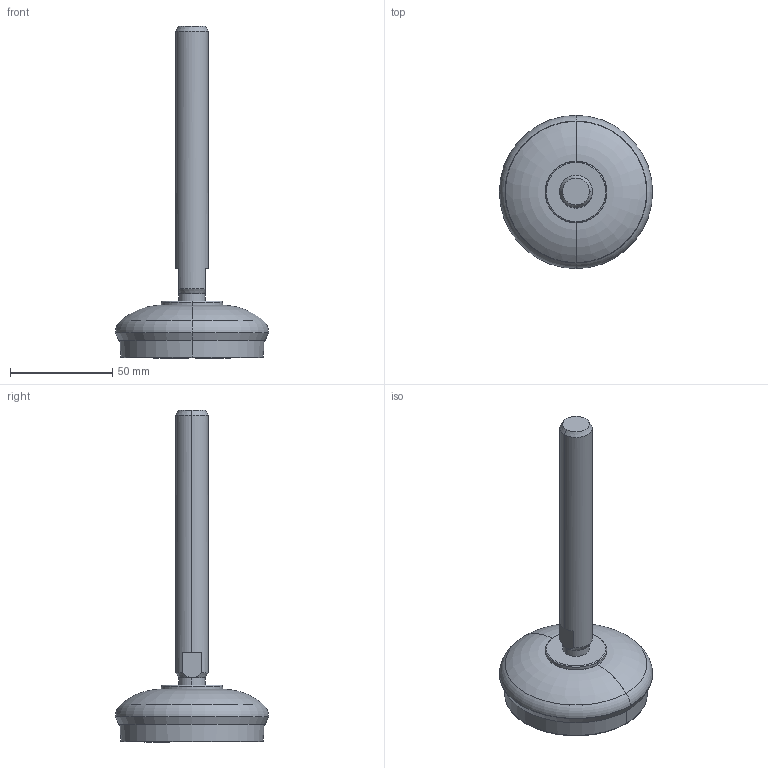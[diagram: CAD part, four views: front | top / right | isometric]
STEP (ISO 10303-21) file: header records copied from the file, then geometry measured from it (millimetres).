
FILE_DESCRIPTION (( 'STEP AP214' ), '1' );
FILE_NAME ('8567805.STEP', '2024-01-24T10:43:32', ( '' ), ( '' ), 'SwSTEP 2.0', 'SolidWorks 2022', '' );
FILE_SCHEMA (( 'AUTOMOTIVE_DESIGN' ));
Length unit declared in the file: millimetre
Products named in the file (1): 8567805
Bounding box: 74.99 x 74.99 x 162.46 mm (x, y, z)
Volume: 120349.4 mm3; surface area: 35137.8 mm2
Topology: 4 solids, 4 shells, 126 faces, 252 edges, 148 vertices
Faces by surface type: torus 38, cone 38, plane 26, cylinder 24
Entity records: 4834 total; most frequent: DIRECTION 684, CARTESIAN_POINT 616, ORIENTED_EDGE 504, AXIS2_PLACEMENT_3D 309, EDGE_CURVE 252, CIRCLE 182, VERTEX_POINT 148, EDGE_LOOP 144
